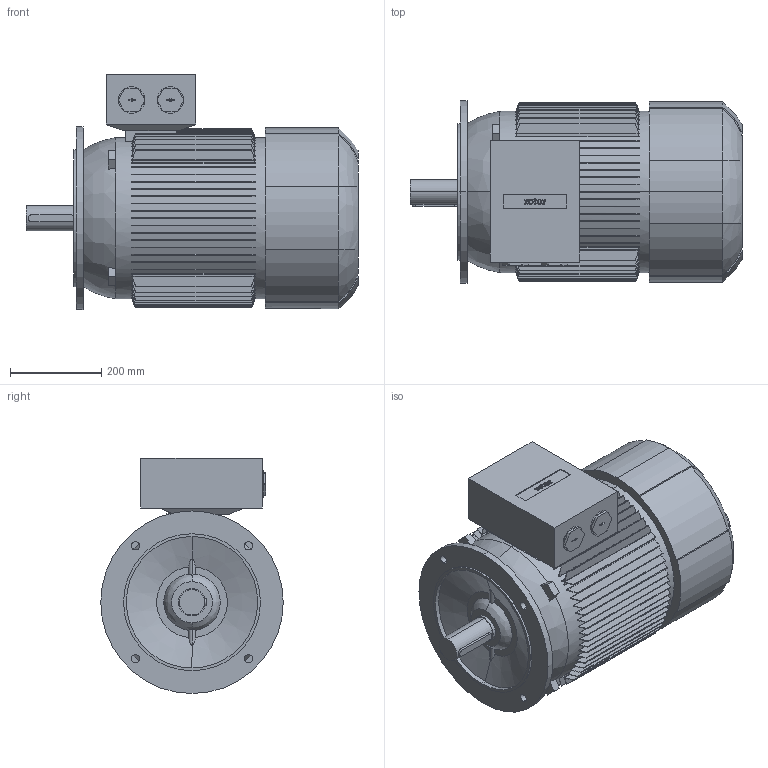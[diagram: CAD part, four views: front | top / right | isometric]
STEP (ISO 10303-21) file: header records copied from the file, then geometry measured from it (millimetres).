
FILE_DESCRIPTION (( 'STEP AP214' ), '1' );
FILE_NAME ('6RN200L06E25 IM3001.STEP', '2014-09-15T11:20:03', ( 'rbc_ict' ), ( 'REGAL' ), 'SwSTEP 2.0', 'SolidWorks 2012', '' );
FILE_SCHEMA (( 'AUTOMOTIVE_DESIGN' ));
Length unit declared in the file: millimetre
Products named in the file (1): 6RN200L06E25 IM3001
Bounding box: 727.5 x 400 x 515 mm (x, y, z)
Volume: 70015034.6 mm3; surface area: 2010249.2 mm2
Topology: 1 solids, 1 shells, 700 faces, 1850 edges, 1224 vertices
Faces by surface type: plane 385, bspline 185, cylinder 124, cone 6
Entity records: 26973 total; most frequent: CARTESIAN_POINT 10856, ORIENTED_EDGE 3700, DIRECTION 2786, EDGE_CURVE 1850, VERTEX_POINT 1224, AXIS2_PLACEMENT_3D 950, LINE 886, VECTOR 886
